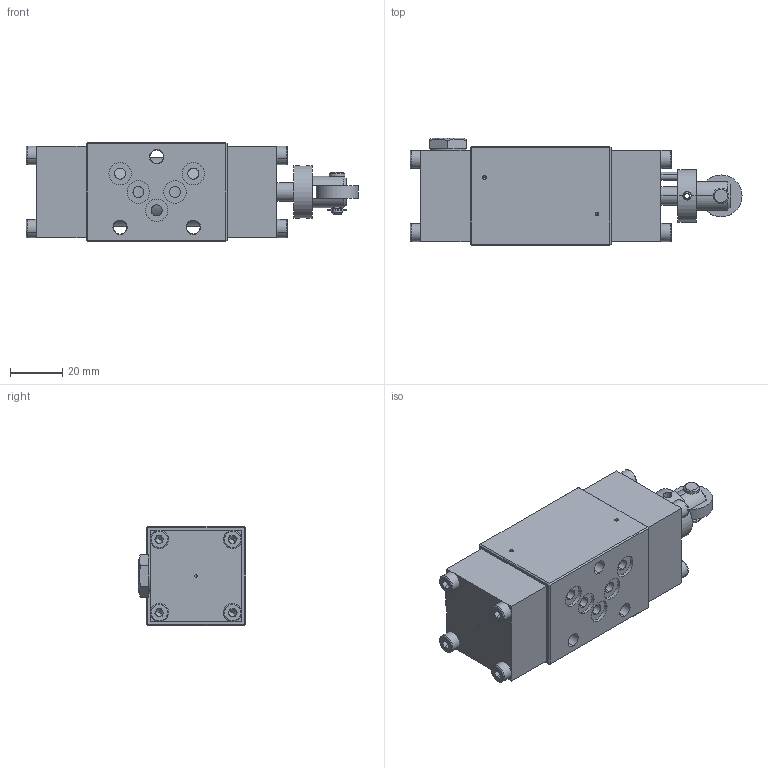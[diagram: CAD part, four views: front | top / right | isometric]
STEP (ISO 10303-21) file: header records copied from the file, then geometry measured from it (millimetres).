
FILE_DESCRIPTION (( 'STEP AP214' ), '1' );
FILE_NAME ('BT4..-Bside.STEP', '2017-03-03T14:44:08', ( '' ), ( '' ), 'SwSTEP 2.0', 'SolidWorks 2016', '' );
FILE_SCHEMA (( 'AUTOMOTIVE_DESIGN' ));
Length unit declared in the file: millimetre
Products named in the file (1): BT4..-Bside
Bounding box: 127 x 41 x 38 mm (x, y, z)
Volume: 125401.1 mm3; surface area: 28310.4 mm2
Topology: 6 solids, 18 shells, 1169 faces, 3134 edges, 2014 vertices
Faces by surface type: plane 569, cylinder 470, cone 67, torus 32, bspline 29, sphere 2
Entity records: 54476 total; most frequent: CARTESIAN_POINT 11888, DIRECTION 6329, ORIENTED_EDGE 6212, EDGE_CURVE 3106, AXIS2_PLACEMENT_3D 2218, VERTEX_POINT 2014, LINE 1893, VECTOR 1893
